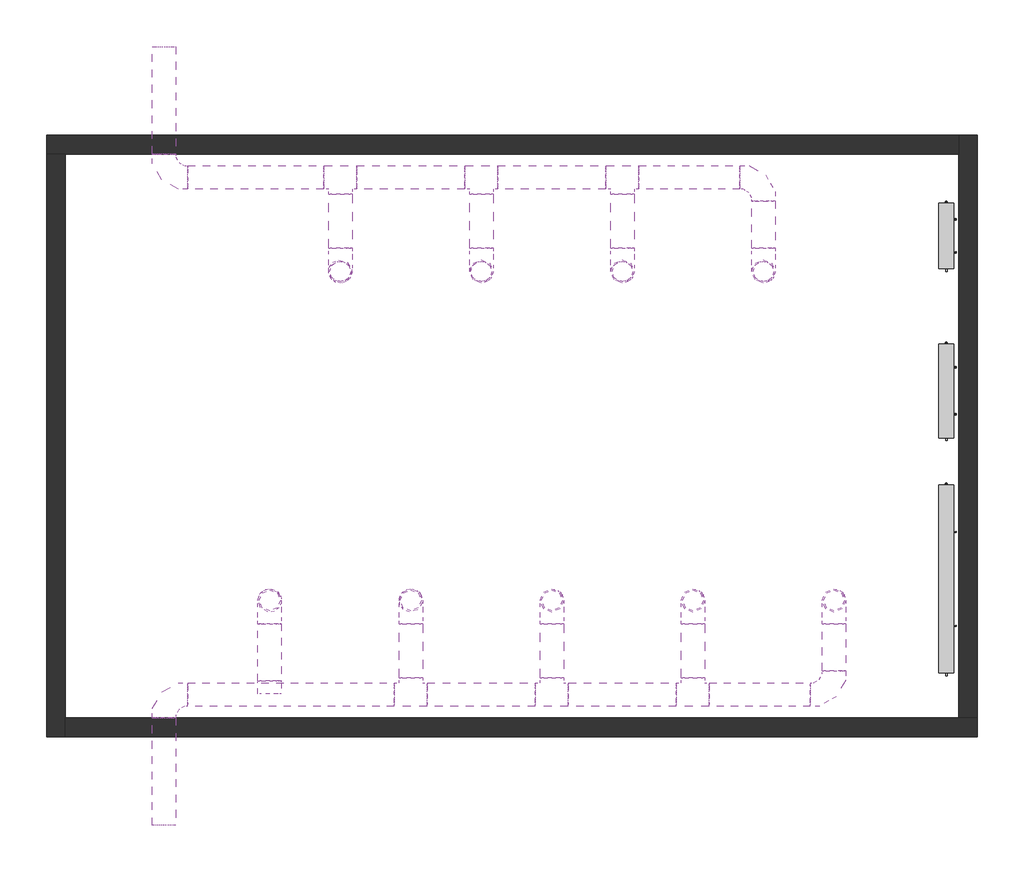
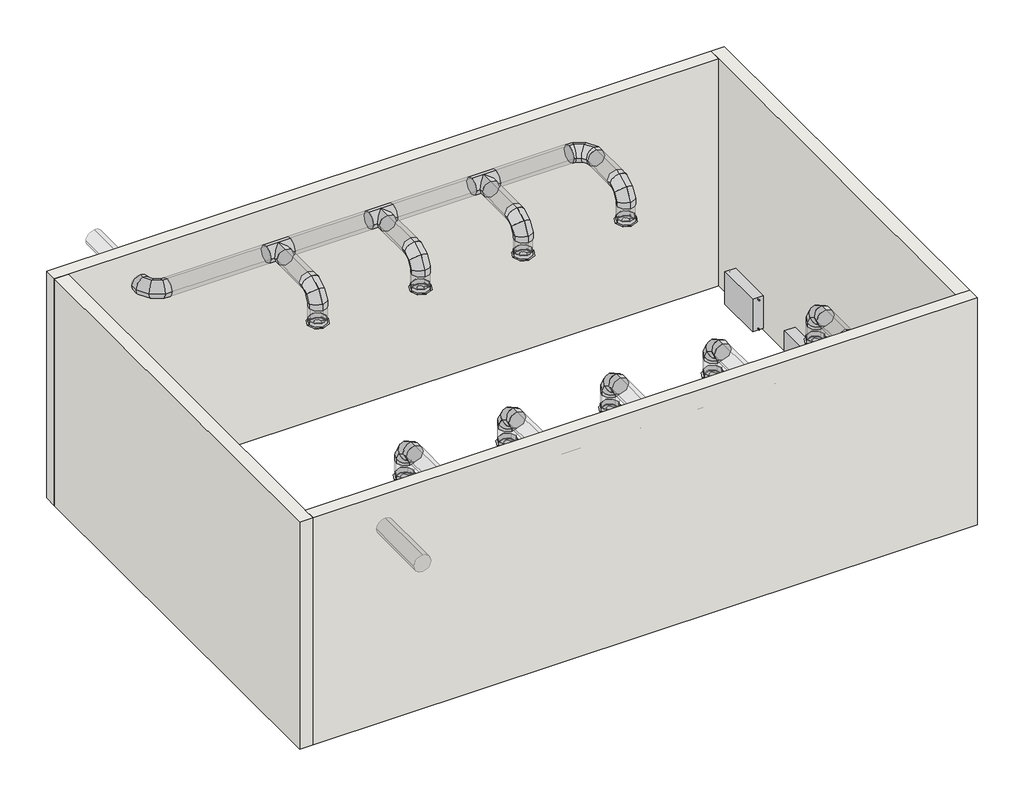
# One storey: 28 duct segments, 20 duct fittings, 9 air terminals, 4 walls, 3 proxies.
"""IFC4 building model written with IfcOpenShell, lengths in millimetres."""

from ifc_helpers import new_model, si_unit, point, frame, frame_2d, origin, place, context, project, spatial, circle_curve, trimmed, segment, composite_curve, outline, extrude, faceted_brep, transform, mapped, element, save
from components import air_terminal_78af20ec, air_terminal_76ce87f1, mechanical_equipment_f235ed72, mechanical_equipment_9d38e92a, proxy_33_500_700_09fd8b91, duct_fitting_1b364241, duct_fitting_96cd7033, duct_fitting_79440b35, duct_fitting_25d344ac, duct_fitting_45c82917

model = new_model("IFC4")

# Units and contexts
model_context = context("Model", 3, world=origin())
ifc_project = project(units=[si_unit("LENGTHUNIT", "METRE", prefix="MILLI")], contexts=[model_context])

# Site, building, storey
site = spatial("IfcSite", under=ifc_project)
building = spatial("IfcBuilding", under=site)
storey = spatial("IfcBuildingStorey", under=building, Name="Уровень 1", Elevation=0.0)

# Air terminals
placement = place(None, origin())
air_terminal_shape = air_terminal_78af20ec(model_context)
element("IfcAirTerminal", 1, ObjectType="ADSK_Диффузор_Круглый_Вытяжной : Ф250", at=placement, inside=storey, context=model_context, shape_type="MappedRepresentation", body=[
    mapped(air_terminal_shape, transform((4240.9436509, 4829.7957283, 2500.0), x_axis=(1.0, 0.0, 0.0), y_axis=(0.0, 1.0, 0.0), z_axis=(0.0, 0.0, 1.0))),
])
element("IfcAirTerminal", 2, ObjectType="ADSK_Диффузор_Круглый_Вытяжной : Ф250", at=placement, inside=storey, context=model_context, shape_type="MappedRepresentation", body=[
    mapped(air_terminal_shape, transform((5740.9436509, 4829.7957283, 2500.0), x_axis=(1.0, 0.0, 0.0), y_axis=(0.0, 1.0, 0.0), z_axis=(0.0, 0.0, 1.0))),
])
element("IfcAirTerminal", 3, ObjectType="ADSK_Диффузор_Круглый_Вытяжной : Ф250", at=placement, inside=storey, context=model_context, shape_type="MappedRepresentation", body=[
    mapped(air_terminal_shape, transform((7240.9436509, 4829.7957283, 2500.0), x_axis=(1.0, 0.0, 0.0), y_axis=(0.0, 1.0, 0.0), z_axis=(0.0, 0.0, 1.0))),
])
element("IfcAirTerminal", 4, ObjectType="ADSK_Диффузор_Круглый_Вытяжной : Ф250", at=placement, inside=storey, context=model_context, shape_type="MappedRepresentation", body=[
    mapped(air_terminal_shape, transform((8740.9436509, 4829.7957283, 2500.0), x_axis=(1.0, 0.0, 0.0), y_axis=(0.0, 1.0, 0.0), z_axis=(0.0, 0.0, 1.0))),
])
air_terminal_2_shape = air_terminal_76ce87f1(model_context)
element("IfcAirTerminal", 5, ObjectType="ADSK_Диффузор_Круглый_Вытяжной : Ф250", at=placement, inside=storey, context=model_context, shape_type="MappedRepresentation", body=[
    mapped(air_terminal_2_shape, transform((4990.9436509, 1329.7086168, 2500.0), x_axis=(1.0, 0.0, 0.0), y_axis=(0.0, 1.0, 0.0), z_axis=(0.0, 0.0, 1.0))),
])
element("IfcAirTerminal", 6, ObjectType="ADSK_Диффузор_Круглый_Вытяжной : Ф250", at=placement, inside=storey, context=model_context, shape_type="MappedRepresentation", body=[
    mapped(air_terminal_2_shape, transform((6490.9436509, 1329.7086168, 2500.0), x_axis=(1.0, 0.0, 0.0), y_axis=(0.0, 1.0, 0.0), z_axis=(0.0, 0.0, 1.0))),
])
element("IfcAirTerminal", 7, ObjectType="ADSK_Диффузор_Круглый_Вытяжной : Ф250", at=placement, inside=storey, context=model_context, shape_type="MappedRepresentation", body=[
    mapped(air_terminal_2_shape, transform((7990.9436509, 1329.7086168, 2500.0), x_axis=(1.0, 0.0, 0.0), y_axis=(0.0, 1.0, 0.0), z_axis=(0.0, 0.0, 1.0))),
])
element("IfcAirTerminal", 8, ObjectType="ADSK_Диффузор_Круглый_Вытяжной : Ф250", at=placement, inside=storey, context=model_context, shape_type="MappedRepresentation", body=[
    mapped(air_terminal_2_shape, transform((9490.9436509, 1329.7086168, 2500.0), x_axis=(1.0, 0.0, 0.0), y_axis=(0.0, 1.0, 0.0), z_axis=(0.0, 0.0, 1.0))),
])
element("IfcAirTerminal", 9, ObjectType="ADSK_Диффузор_Круглый_Вытяжной : Ф250", at=placement, inside=storey, context=model_context, shape_type="MappedRepresentation", body=[
    mapped(air_terminal_2_shape, transform((3490.9436509, 1329.7086168, 2500.0), x_axis=(1.0, 0.0, 0.0), y_axis=(0.0, 1.0, 0.0), z_axis=(0.0, 0.0, 1.0))),
])

# Proxies
mechanical_equipment_shape = mechanical_equipment_f235ed72(model_context)
element("IfcBuildingElementProxy", 10, Name="ADSK_Радиатор_СтальнойПанельный : 33_500_1000", ObjectType="ADSK_Радиатор_СтальнойПанельный : 33_500_1000", at=placement, inside=storey, context=model_context, shape_type="MappedRepresentation", body=[
    mapped(mechanical_equipment_shape, transform((10817.2887318, 3759.7521725, 0.0), x_axis=(0.0, -1.0, 0.0), y_axis=(1.0, 0.0, 0.0), z_axis=(0.0, 0.0, 1.0))),
])
mechanical_equipment_2_shape = mechanical_equipment_9d38e92a(model_context)
element("IfcBuildingElementProxy", 11, Name="ADSK_Радиатор_СтальнойПанельный : 33_500_2000", ObjectType="ADSK_Радиатор_СтальнойПанельный : 33_500_2000", at=placement, inside=storey, context=model_context, shape_type="MappedRepresentation", body=[
    mapped(mechanical_equipment_2_shape, transform((10817.2887318, 1759.7521725, 0.0), x_axis=(0.0, -1.0, 0.0), y_axis=(1.0, 0.0, 0.0), z_axis=(0.0, 0.0, 1.0))),
])
proxy_33_500_700_shape = proxy_33_500_700_09fd8b91(model_context)
element("IfcBuildingElementProxy", 12, Name="ADSK_Радиатор_СтальнойПанельный : 33_500_700", ObjectType="ADSK_Радиатор_СтальнойПанельный : 33_500_700", at=placement, inside=storey, context=model_context, shape_type="MappedRepresentation", body=[
    mapped(proxy_33_500_700_shape, transform((10817.2887318, 5409.7521725, 0.0), x_axis=(0.0, -1.0, 0.0), y_axis=(1.0, 0.0, 0.0), z_axis=(0.0, 0.0, 1.0))),
])

# Duct fittings
duct_fitting_shape = duct_fitting_1b364241(model_context)
element("IfcDuctFitting", 13, ObjectType="ADSK_ОтводВоздуховодов_Круглый : Стандарт", at=placement, inside=storey, context=model_context, shape_type="MappedRepresentation", body=[
    mapped(duct_fitting_shape, transform((4240.9436509, 4829.7957283, 3000.0), x_axis=(0.0, 0.0, 1.0), y_axis=(0.0, 1.0, 0.0), z_axis=(-1.0, 0.0, 0.0))),
])
element("IfcDuctFitting", 14, ObjectType="ADSK_ОтводВоздуховодов_Круглый : Стандарт", at=placement, inside=storey, context=model_context, shape_type="MappedRepresentation", body=[
    mapped(duct_fitting_shape, transform((5740.9436509, 4829.7957283, 3000.0), x_axis=(0.0, 0.0, 1.0), y_axis=(0.0, 1.0, 0.0), z_axis=(-1.0, 0.0, 0.0))),
])
element("IfcDuctFitting", 15, ObjectType="ADSK_ОтводВоздуховодов_Круглый : Стандарт", at=placement, inside=storey, context=model_context, shape_type="MappedRepresentation", body=[
    mapped(duct_fitting_shape, transform((7240.9436509, 4829.7957283, 3000.0), x_axis=(0.0, 0.0, 1.0), y_axis=(0.0, 1.0, 0.0), z_axis=(-1.0, 0.0, 0.0))),
])
element("IfcDuctFitting", 16, ObjectType="ADSK_ОтводВоздуховодов_Круглый : Стандарт", at=placement, inside=storey, context=model_context, shape_type="MappedRepresentation", body=[
    mapped(duct_fitting_shape, transform((8740.9436509, 5829.6845708, 3000.0), x_axis=(0.0, 1.0, 0.0), y_axis=(-1.0, 0.0, 0.0), z_axis=(0.0, 0.0, 1.0))),
])
element("IfcDuctFitting", 17, ObjectType="ADSK_ОтводВоздуховодов_Круглый : Стандарт", at=placement, inside=storey, context=model_context, shape_type="MappedRepresentation", body=[
    mapped(duct_fitting_shape, transform((8740.9436509, 4829.7957283, 3000.0), x_axis=(0.0, 0.0, 1.0), y_axis=(0.0, 1.0, 0.0), z_axis=(-1.0, 0.0, 0.0))),
])
element("IfcDuctFitting", 18, ObjectType="ADSK_ОтводВоздуховодов_Круглый : Стандарт", at=placement, inside=storey, context=model_context, shape_type="MappedRepresentation", body=[
    mapped(duct_fitting_shape, transform((2367.9191476, 5829.6845708, 3000.0), x_axis=(0.0, -1.0, 0.0), y_axis=(1.0, 0.0, 0.0), z_axis=(0.0, 0.0, 1.0))),
])
element("IfcDuctFitting", 19, ObjectType="ADSK_ОтводВоздуховодов_Круглый : Стандарт", at=placement, inside=storey, context=model_context, shape_type="MappedRepresentation", body=[
    mapped(duct_fitting_shape, transform((3490.9436509, 1329.7086168, 3000.0), x_axis=(0.0, 0.0, 1.0), y_axis=(0.0, -1.0, 0.0), z_axis=(1.0, 0.0, 0.0))),
])
duct_fitting_2_shape = duct_fitting_96cd7033(model_context)
element("IfcDuctFitting", 20, ObjectType="ADSK_ТройникВоздуховодов_Круглый : Стандарт", at=placement, inside=storey, context=model_context, shape_type="MappedRepresentation", body=[
    mapped(duct_fitting_2_shape, transform((4240.9436509, 5829.6845708, 3000.0), x_axis=(1.0, 0.0, 0.0), y_axis=(0.0, 1.0, 0.0), z_axis=(0.0, 0.0, 1.0))),
])
element("IfcDuctFitting", 21, ObjectType="ADSK_ТройникВоздуховодов_Круглый : Стандарт", at=placement, inside=storey, context=model_context, shape_type="MappedRepresentation", body=[
    mapped(duct_fitting_2_shape, transform((5740.9436509, 5829.6845708, 3000.0), x_axis=(1.0, 0.0, 0.0), y_axis=(0.0, 1.0, 0.0), z_axis=(0.0, 0.0, 1.0))),
])
element("IfcDuctFitting", 22, ObjectType="ADSK_ТройникВоздуховодов_Круглый : Стандарт", at=placement, inside=storey, context=model_context, shape_type="MappedRepresentation", body=[
    mapped(duct_fitting_2_shape, transform((7240.9436509, 5829.6845708, 3000.0), x_axis=(1.0, 0.0, 0.0), y_axis=(0.0, 1.0, 0.0), z_axis=(0.0, 0.0, 1.0))),
])
duct_fitting_3_shape = duct_fitting_79440b35(model_context)
element("IfcDuctFitting", 23, ObjectType="ADSK_ОтводВоздуховодов_Круглый : Стандарт", at=placement, inside=storey, context=model_context, shape_type="MappedRepresentation", body=[
    mapped(duct_fitting_3_shape, transform((4990.9436509, 1329.7086168, 3000.0), x_axis=(0.0, 0.0, 1.0), y_axis=(0.0, 1.0, 0.0), z_axis=(-1.0, 0.0, 0.0))),
])
element("IfcDuctFitting", 24, ObjectType="ADSK_ОтводВоздуховодов_Круглый : Стандарт", at=placement, inside=storey, context=model_context, shape_type="MappedRepresentation", body=[
    mapped(duct_fitting_3_shape, transform((6490.9436509, 1329.7086168, 3000.0), x_axis=(0.0, 0.0, 1.0), y_axis=(0.0, 1.0, 0.0), z_axis=(-1.0, 0.0, 0.0))),
])
element("IfcDuctFitting", 25, ObjectType="ADSK_ОтводВоздуховодов_Круглый : Стандарт", at=placement, inside=storey, context=model_context, shape_type="MappedRepresentation", body=[
    mapped(duct_fitting_3_shape, transform((7990.9436509, 1329.7086168, 3000.0), x_axis=(0.0, 0.0, 1.0), y_axis=(0.0, 1.0, 0.0), z_axis=(-1.0, 0.0, 0.0))),
])
element("IfcDuctFitting", 26, ObjectType="ADSK_ОтводВоздуховодов_Круглый : Стандарт", at=placement, inside=storey, context=model_context, shape_type="MappedRepresentation", body=[
    mapped(duct_fitting_3_shape, transform((9490.9436509, 329.8197743, 3000.0), x_axis=(0.0, -1.0, 0.0), y_axis=(1.0, 0.0, 0.0), z_axis=(0.0, 0.0, 1.0))),
])
element("IfcDuctFitting", 27, ObjectType="ADSK_ОтводВоздуховодов_Круглый : Стандарт", at=placement, inside=storey, context=model_context, shape_type="MappedRepresentation", body=[
    mapped(duct_fitting_3_shape, transform((9490.9436509, 1329.7086168, 3000.0), x_axis=(0.0, 0.0, 1.0), y_axis=(0.0, 1.0, 0.0), z_axis=(-1.0, 0.0, 0.0))),
])
element("IfcDuctFitting", 28, ObjectType="ADSK_ОтводВоздуховодов_Круглый : Стандарт", at=placement, inside=storey, context=model_context, shape_type="MappedRepresentation", body=[
    mapped(duct_fitting_3_shape, transform((2367.9191476, 329.8197743, 3000.0), x_axis=(0.0, 1.0, 0.0), y_axis=(-1.0, 0.0, 0.0), z_axis=(0.0, 0.0, 1.0))),
])
duct_fitting_4_shape = duct_fitting_25d344ac(model_context)
element("IfcDuctFitting", 29, ObjectType="ADSK_ТройникВоздуховодов_Круглый : Стандарт", at=placement, inside=storey, context=model_context, shape_type="MappedRepresentation", body=[
    mapped(duct_fitting_4_shape, transform((4990.9436509, 329.8197743, 3000.0), x_axis=(1.0, 0.0, 0.0), y_axis=(0.0, 1.0, 0.0), z_axis=(0.0, 0.0, 1.0))),
])
element("IfcDuctFitting", 30, ObjectType="ADSK_ТройникВоздуховодов_Круглый : Стандарт", at=placement, inside=storey, context=model_context, shape_type="MappedRepresentation", body=[
    mapped(duct_fitting_4_shape, transform((6490.9436509, 329.8197743, 3000.0), x_axis=(1.0, 0.0, 0.0), y_axis=(0.0, 1.0, 0.0), z_axis=(0.0, 0.0, 1.0))),
])
element("IfcDuctFitting", 31, ObjectType="ADSK_ТройникВоздуховодов_Круглый : Стандарт", at=placement, inside=storey, context=model_context, shape_type="MappedRepresentation", body=[
    mapped(duct_fitting_4_shape, transform((7990.9436509, 329.8197743, 3000.0), x_axis=(1.0, 0.0, 0.0), y_axis=(0.0, 1.0, 0.0), z_axis=(0.0, 0.0, 1.0))),
])
duct_fitting_5_shape = duct_fitting_45c82917(model_context)
element("IfcDuctFitting", 32, ObjectType="ADSK_ВрезкаВоздуховодов_Круглая : Стандарт", at=placement, inside=storey, context=model_context, shape_type="MappedRepresentation", body=[
    mapped(duct_fitting_5_shape, transform((3490.9436509, 454.8197743, 3000.0), x_axis=(0.0, 1.0, 0.0), y_axis=(1.0, 0.0, 0.0), z_axis=(0.0, 0.0, -1.0))),
])

# Duct segments
element("IfcDuctSegment", 33, ObjectType="ADSK_Без огнезащиты_Врезки_ГОСТ 14918-80", at=placement, inside=storey, context=model_context, shape_type="SweptSolid", body=[
    extrude(outline(composite_curve([segment(trimmed(circle_curve(frame_2d((5829.6845708, 3000.0)), 125.0), [point((5704.6845708, 3000.0))], [point((5829.6845708, 3125.0))], False, "CARTESIAN"), True, "CONTINUOUS"), segment(trimmed(circle_curve(frame_2d((5829.6845708, 3000.0)), 125.0), [point((5829.6845708, 3125.0))], [point((5954.6845708, 3000.0))], False, "CARTESIAN"), True, "CONTINUOUS"), segment(trimmed(circle_curve(frame_2d((5829.6845708, 3000.0)), 125.0), [point((5954.6845708, 3000.0))], [point((5829.6845708, 2875.0))], False, "CARTESIAN"), True, "CONTINUOUS"), segment(trimmed(circle_curve(frame_2d((5829.6845708, 3000.0)), 125.0), [point((5829.6845708, 2875.0))], [point((5704.6845708, 3000.0))], False, "CARTESIAN"), True, "CONTINUOUS")], self_intersect=False)), frame((2617.9191476, 0.0, 0.0), z_axis=(1.0, 0.0, 0.0), x_axis=(0.0, 1.0, 0.0)), (0.0, 0.0, 1.0), 1448.0245033),
])
element("IfcDuctSegment", 34, ObjectType="ADSK_Без огнезащиты_Врезки_ГОСТ 14918-80", at=placement, inside=storey, context=model_context, shape_type="SweptSolid", body=[
    extrude(outline(composite_curve([segment(trimmed(circle_curve(frame_2d((3000.0, 4240.9436509)), 125.0), [point((3000.0, 4115.9436509))], [point((2875.0, 4240.9436509))], False, "CARTESIAN"), True, "CONTINUOUS"), segment(trimmed(circle_curve(frame_2d((3000.0, 4240.9436509)), 125.0), [point((2875.0, 4240.9436509))], [point((3000.0, 4365.9436509))], False, "CARTESIAN"), True, "CONTINUOUS"), segment(trimmed(circle_curve(frame_2d((3000.0, 4240.9436509)), 125.0), [point((3000.0, 4365.9436509))], [point((3125.0, 4240.9436509))], False, "CARTESIAN"), True, "CONTINUOUS"), segment(trimmed(circle_curve(frame_2d((3000.0, 4240.9436509)), 125.0), [point((3125.0, 4240.9436509))], [point((3000.0, 4115.9436509))], False, "CARTESIAN"), True, "CONTINUOUS")], self_intersect=False)), frame((0.0, 5079.7957283, 0.0), z_axis=(0.0, 1.0, 0.0), x_axis=(0.0, 0.0, 1.0)), (0.0, 0.0, 1.0), 574.8888425),
])
element("IfcDuctSegment", 35, ObjectType="ADSK_Без огнезащиты_Врезки_ГОСТ 14918-80", at=placement, inside=storey, context=model_context, shape_type="SweptSolid", body=[
    extrude(outline(composite_curve([segment(trimmed(circle_curve(frame_2d((4240.9436509, 4829.7957283)), 125.0), [point((4364.560695, 4848.3382849))], [point((4259.4862075, 4706.1786842))], False, "CARTESIAN"), True, "CONTINUOUS"), segment(trimmed(circle_curve(frame_2d((4240.9436509, 4829.7957283)), 125.0), [point((4259.4862075, 4706.1786842))], [point((4117.3266068, 4811.2531717))], False, "CARTESIAN"), True, "CONTINUOUS"), segment(trimmed(circle_curve(frame_2d((4240.9436509, 4829.7957283)), 125.0), [point((4117.3266068, 4811.2531717))], [point((4222.4010943, 4953.4127724))], False, "CARTESIAN"), True, "CONTINUOUS"), segment(trimmed(circle_curve(frame_2d((4240.9436509, 4829.7957283)), 125.0), [point((4222.4010943, 4953.4127724))], [point((4364.560695, 4848.3382849))], False, "CARTESIAN"), True, "CONTINUOUS")], self_intersect=False)), frame((0.0, 0.0, 2555.0), z_axis=(0.0, 0.0, 1.0), x_axis=(1.0, 0.0, 0.0)), (0.0, 0.0, 1.0), 195.0),
])
element("IfcDuctSegment", 36, ObjectType="По умолчанию", at=placement, inside=storey, context=model_context, shape_type="SweptSolid", body=[
    extrude(outline(composite_curve([segment(trimmed(circle_curve(frame_2d((5829.6845708, 3000.0)), 125.0), [point((5704.6845708, 3000.0))], [point((5829.6845708, 3125.0))], False, "CARTESIAN"), True, "CONTINUOUS"), segment(trimmed(circle_curve(frame_2d((5829.6845708, 3000.0)), 125.0), [point((5829.6845708, 3125.0))], [point((5954.6845708, 3000.0))], False, "CARTESIAN"), True, "CONTINUOUS"), segment(trimmed(circle_curve(frame_2d((5829.6845708, 3000.0)), 125.0), [point((5954.6845708, 3000.0))], [point((5829.6845708, 2875.0))], False, "CARTESIAN"), True, "CONTINUOUS"), segment(trimmed(circle_curve(frame_2d((5829.6845708, 3000.0)), 125.0), [point((5829.6845708, 2875.0))], [point((5704.6845708, 3000.0))], False, "CARTESIAN"), True, "CONTINUOUS")], self_intersect=False)), frame((4415.9436509, 0.0, 0.0), z_axis=(1.0, 0.0, 0.0), x_axis=(0.0, 1.0, 0.0)), (0.0, 0.0, 1.0), 1150.0),
])
element("IfcDuctSegment", 37, ObjectType="ADSK_Без огнезащиты_Врезки_ГОСТ 14918-80", at=placement, inside=storey, context=model_context, shape_type="SweptSolid", body=[
    extrude(outline(composite_curve([segment(trimmed(circle_curve(frame_2d((3000.0, 5740.9436509)), 125.0), [point((3000.0, 5615.9436509))], [point((2875.0, 5740.9436509))], False, "CARTESIAN"), True, "CONTINUOUS"), segment(trimmed(circle_curve(frame_2d((3000.0, 5740.9436509)), 125.0), [point((2875.0, 5740.9436509))], [point((3000.0, 5865.9436509))], False, "CARTESIAN"), True, "CONTINUOUS"), segment(trimmed(circle_curve(frame_2d((3000.0, 5740.9436509)), 125.0), [point((3000.0, 5865.9436509))], [point((3125.0, 5740.9436509))], False, "CARTESIAN"), True, "CONTINUOUS"), segment(trimmed(circle_curve(frame_2d((3000.0, 5740.9436509)), 125.0), [point((3125.0, 5740.9436509))], [point((3000.0, 5615.9436509))], False, "CARTESIAN"), True, "CONTINUOUS")], self_intersect=False)), frame((0.0, 5079.7957283, 0.0), z_axis=(0.0, 1.0, 0.0), x_axis=(0.0, 0.0, 1.0)), (0.0, 0.0, 1.0), 574.8888425),
])
element("IfcDuctSegment", 38, ObjectType="ADSK_Без огнезащиты_Врезки_ГОСТ 14918-80", at=placement, inside=storey, context=model_context, shape_type="SweptSolid", body=[
    extrude(outline(composite_curve([segment(trimmed(circle_curve(frame_2d((5740.9436509, 4829.7957283)), 125.0), [point((5865.9436509, 4829.7957283))], [point((5740.9436509, 4704.7957283))], False, "CARTESIAN"), True, "CONTINUOUS"), segment(trimmed(circle_curve(frame_2d((5740.9436509, 4829.7957283)), 125.0), [point((5740.9436509, 4704.7957283))], [point((5615.9436509, 4829.7957283))], False, "CARTESIAN"), True, "CONTINUOUS"), segment(trimmed(circle_curve(frame_2d((5740.9436509, 4829.7957283)), 125.0), [point((5615.9436509, 4829.7957283))], [point((5740.9436509, 4954.7957283))], False, "CARTESIAN"), True, "CONTINUOUS"), segment(trimmed(circle_curve(frame_2d((5740.9436509, 4829.7957283)), 125.0), [point((5740.9436509, 4954.7957283))], [point((5865.9436509, 4829.7957283))], False, "CARTESIAN"), True, "CONTINUOUS")], self_intersect=False)), frame((0.0, 0.0, 2555.0), z_axis=(0.0, 0.0, 1.0), x_axis=(1.0, 0.0, 0.0)), (0.0, 0.0, 1.0), 195.0),
])
element("IfcDuctSegment", 39, ObjectType="ADSK_Без огнезащиты_Врезки_ГОСТ 14918-80", at=placement, inside=storey, context=model_context, shape_type="SweptSolid", body=[
    extrude(outline(composite_curve([segment(trimmed(circle_curve(frame_2d((3000.0, 7240.9436509)), 125.0), [point((3000.0, 7115.9436509))], [point((2875.0, 7240.9436509))], False, "CARTESIAN"), True, "CONTINUOUS"), segment(trimmed(circle_curve(frame_2d((3000.0, 7240.9436509)), 125.0), [point((2875.0, 7240.9436509))], [point((3000.0, 7365.9436509))], False, "CARTESIAN"), True, "CONTINUOUS"), segment(trimmed(circle_curve(frame_2d((3000.0, 7240.9436509)), 125.0), [point((3000.0, 7365.9436509))], [point((3125.0, 7240.9436509))], False, "CARTESIAN"), True, "CONTINUOUS"), segment(trimmed(circle_curve(frame_2d((3000.0, 7240.9436509)), 125.0), [point((3125.0, 7240.9436509))], [point((3000.0, 7115.9436509))], False, "CARTESIAN"), True, "CONTINUOUS")], self_intersect=False)), frame((0.0, 5079.7957283, 0.0), z_axis=(0.0, 1.0, 0.0), x_axis=(0.0, 0.0, 1.0)), (0.0, 0.0, 1.0), 574.8888425),
])
element("IfcDuctSegment", 40, ObjectType="ADSK_Без огнезащиты_Врезки_ГОСТ 14918-80", at=placement, inside=storey, context=model_context, shape_type="SweptSolid", body=[
    extrude(outline(composite_curve([segment(trimmed(circle_curve(frame_2d((7240.9436509, 4829.7957283)), 125.0), [point((7365.9436509, 4829.7957283))], [point((7240.9436509, 4704.7957283))], False, "CARTESIAN"), True, "CONTINUOUS"), segment(trimmed(circle_curve(frame_2d((7240.9436509, 4829.7957283)), 125.0), [point((7240.9436509, 4704.7957283))], [point((7115.9436509, 4829.7957283))], False, "CARTESIAN"), True, "CONTINUOUS"), segment(trimmed(circle_curve(frame_2d((7240.9436509, 4829.7957283)), 125.0), [point((7115.9436509, 4829.7957283))], [point((7240.9436509, 4954.7957283))], False, "CARTESIAN"), True, "CONTINUOUS"), segment(trimmed(circle_curve(frame_2d((7240.9436509, 4829.7957283)), 125.0), [point((7240.9436509, 4954.7957283))], [point((7365.9436509, 4829.7957283))], False, "CARTESIAN"), True, "CONTINUOUS")], self_intersect=False)), frame((0.0, 0.0, 2555.0), z_axis=(0.0, 0.0, 1.0), x_axis=(1.0, 0.0, 0.0)), (0.0, 0.0, 1.0), 195.0),
])
element("IfcDuctSegment", 41, ObjectType="ADSK_Без огнезащиты_Врезки_ГОСТ 14918-80", at=placement, inside=storey, context=model_context, shape_type="SweptSolid", body=[
    extrude(outline(composite_curve([segment(trimmed(circle_curve(frame_2d((3000.0, 8740.9436509)), 125.0), [point((3000.0, 8615.9436509))], [point((2875.0, 8740.9436509))], False, "CARTESIAN"), True, "CONTINUOUS"), segment(trimmed(circle_curve(frame_2d((3000.0, 8740.9436509)), 125.0), [point((2875.0, 8740.9436509))], [point((3000.0, 8865.9436509))], False, "CARTESIAN"), True, "CONTINUOUS"), segment(trimmed(circle_curve(frame_2d((3000.0, 8740.9436509)), 125.0), [point((3000.0, 8865.9436509))], [point((3125.0, 8740.9436509))], False, "CARTESIAN"), True, "CONTINUOUS"), segment(trimmed(circle_curve(frame_2d((3000.0, 8740.9436509)), 125.0), [point((3125.0, 8740.9436509))], [point((3000.0, 8615.9436509))], False, "CARTESIAN"), True, "CONTINUOUS")], self_intersect=False)), frame((0.0, 5079.7957283, 0.0), z_axis=(0.0, 1.0, 0.0), x_axis=(0.0, 0.0, 1.0)), (0.0, 0.0, 1.0), 499.8888425),
])
element("IfcDuctSegment", 42, ObjectType="ADSK_Без огнезащиты_Врезки_ГОСТ 14918-80", at=placement, inside=storey, context=model_context, shape_type="SweptSolid", body=[
    extrude(outline(composite_curve([segment(trimmed(circle_curve(frame_2d((8740.9436509, 4829.7957283)), 125.0), [point((8865.9436509, 4829.7957283))], [point((8740.9436509, 4704.7957283))], False, "CARTESIAN"), True, "CONTINUOUS"), segment(trimmed(circle_curve(frame_2d((8740.9436509, 4829.7957283)), 125.0), [point((8740.9436509, 4704.7957283))], [point((8615.9436509, 4829.7957283))], False, "CARTESIAN"), True, "CONTINUOUS"), segment(trimmed(circle_curve(frame_2d((8740.9436509, 4829.7957283)), 125.0), [point((8615.9436509, 4829.7957283))], [point((8740.9436509, 4954.7957283))], False, "CARTESIAN"), True, "CONTINUOUS"), segment(trimmed(circle_curve(frame_2d((8740.9436509, 4829.7957283)), 125.0), [point((8740.9436509, 4954.7957283))], [point((8865.9436509, 4829.7957283))], False, "CARTESIAN"), True, "CONTINUOUS")], self_intersect=False)), frame((0.0, 0.0, 2555.0), z_axis=(0.0, 0.0, 1.0), x_axis=(1.0, 0.0, 0.0)), (0.0, 0.0, 1.0), 195.0),
])
element("IfcDuctSegment", 43, ObjectType="По умолчанию", at=placement, inside=storey, context=model_context, shape_type="SweptSolid", body=[
    extrude(outline(composite_curve([segment(trimmed(circle_curve(frame_2d((5829.6845708, 3000.0)), 125.0), [point((5954.6845708, 3000.0))], [point((5829.6845708, 2875.0))], False, "CARTESIAN"), True, "CONTINUOUS"), segment(trimmed(circle_curve(frame_2d((5829.6845708, 3000.0)), 125.0), [point((5829.6845708, 2875.0))], [point((5704.6845708, 3000.0))], False, "CARTESIAN"), True, "CONTINUOUS"), segment(trimmed(circle_curve(frame_2d((5829.6845708, 3000.0)), 125.0), [point((5704.6845708, 3000.0))], [point((5829.6845708, 3125.0))], False, "CARTESIAN"), True, "CONTINUOUS"), segment(trimmed(circle_curve(frame_2d((5829.6845708, 3000.0)), 125.0), [point((5829.6845708, 3125.0))], [point((5954.6845708, 3000.0))], False, "CARTESIAN"), True, "CONTINUOUS")], self_intersect=False)), frame((5915.9436509, 0.0, 0.0), z_axis=(1.0, 0.0, 0.0), x_axis=(0.0, 1.0, 0.0)), (0.0, 0.0, 1.0), 1150.0),
])
element("IfcDuctSegment", 44, ObjectType="ADSK_Без огнезащиты_Врезки_ГОСТ 14918-80", at=placement, inside=storey, context=model_context, shape_type="SweptSolid", body=[
    extrude(outline(composite_curve([segment(trimmed(circle_curve(frame_2d((5829.6845708, 3000.0)), 125.0), [point((5704.6845708, 3000.0))], [point((5829.6845708, 3125.0))], False, "CARTESIAN"), True, "CONTINUOUS"), segment(trimmed(circle_curve(frame_2d((5829.6845708, 3000.0)), 125.0), [point((5829.6845708, 3125.0))], [point((5954.6845708, 3000.0))], False, "CARTESIAN"), True, "CONTINUOUS"), segment(trimmed(circle_curve(frame_2d((5829.6845708, 3000.0)), 125.0), [point((5954.6845708, 3000.0))], [point((5829.6845708, 2875.0))], False, "CARTESIAN"), True, "CONTINUOUS"), segment(trimmed(circle_curve(frame_2d((5829.6845708, 3000.0)), 125.0), [point((5829.6845708, 2875.0))], [point((5704.6845708, 3000.0))], False, "CARTESIAN"), True, "CONTINUOUS")], self_intersect=False)), frame((7415.9436509, 0.0, 0.0), z_axis=(1.0, 0.0, 0.0), x_axis=(0.0, 1.0, 0.0)), (0.0, 0.0, 1.0), 1075.0),
])
element("IfcDuctSegment", 45, ObjectType="ADSK_Без огнезащиты_Врезки_ГОСТ 14918-80", at=placement, inside=storey, context=model_context, shape_type="SweptSolid", body=[
    extrude(outline(composite_curve([segment(trimmed(circle_curve(frame_2d((3000.0, 2367.9191476)), 125.0), [point((3000.0, 2492.9191476))], [point((3125.0, 2367.9191476))], False, "CARTESIAN"), True, "CONTINUOUS"), segment(trimmed(circle_curve(frame_2d((3000.0, 2367.9191476)), 125.0), [point((3125.0, 2367.9191476))], [point((3000.0, 2242.9191476))], False, "CARTESIAN"), True, "CONTINUOUS"), segment(trimmed(circle_curve(frame_2d((3000.0, 2367.9191476)), 125.0), [point((3000.0, 2242.9191476))], [point((2875.0, 2367.9191476))], False, "CARTESIAN"), True, "CONTINUOUS"), segment(trimmed(circle_curve(frame_2d((3000.0, 2367.9191476)), 125.0), [point((2875.0, 2367.9191476))], [point((3000.0, 2492.9191476))], False, "CARTESIAN"), True, "CONTINUOUS")], self_intersect=False)), frame((0.0, 6079.6845708, 0.0), z_axis=(0.0, 1.0, 0.0), x_axis=(0.0, 0.0, 1.0)), (0.0, 0.0, 1.0), 1143.9714759),
])
element("IfcDuctSegment", 46, ObjectType="ADSK_Без огнезащиты_Врезки_ГОСТ 14918-80", at=placement, inside=storey, context=model_context, shape_type="SweptSolid", body=[
    extrude(outline(composite_curve([segment(trimmed(circle_curve(frame_2d((329.8197743, 3000.0)), 125.0), [point((204.8197743, 3000.0))], [point((329.8197743, 3125.0))], False, "CARTESIAN"), True, "CONTINUOUS"), segment(trimmed(circle_curve(frame_2d((329.8197743, 3000.0)), 125.0), [point((329.8197743, 3125.0))], [point((454.8197743, 3000.0))], False, "CARTESIAN"), True, "CONTINUOUS"), segment(trimmed(circle_curve(frame_2d((329.8197743, 3000.0)), 125.0), [point((454.8197743, 3000.0))], [point((329.8197743, 2875.0))], False, "CARTESIAN"), True, "CONTINUOUS"), segment(trimmed(circle_curve(frame_2d((329.8197743, 3000.0)), 125.0), [point((329.8197743, 2875.0))], [point((204.8197743, 3000.0))], False, "CARTESIAN"), True, "CONTINUOUS")], self_intersect=False)), frame((2617.9191476, 0.0, 0.0), z_axis=(1.0, 0.0, 0.0), x_axis=(0.0, 1.0, 0.0)), (0.0, 0.0, 1.0), 2198.0245033),
])
element("IfcDuctSegment", 47, ObjectType="ADSK_Без огнезащиты_Врезки_ГОСТ 14918-80", at=placement, inside=storey, context=model_context, shape_type="SweptSolid", body=[
    extrude(outline(composite_curve([segment(trimmed(circle_curve(frame_2d((3000.0, 4990.9436509)), 125.0), [point((3000.0, 5115.9436509))], [point((3125.0, 4990.9436509))], False, "CARTESIAN"), True, "CONTINUOUS"), segment(trimmed(circle_curve(frame_2d((3000.0, 4990.9436509)), 125.0), [point((3125.0, 4990.9436509))], [point((3000.0, 4865.9436509))], False, "CARTESIAN"), True, "CONTINUOUS"), segment(trimmed(circle_curve(frame_2d((3000.0, 4990.9436509)), 125.0), [point((3000.0, 4865.9436509))], [point((2875.0, 4990.9436509))], False, "CARTESIAN"), True, "CONTINUOUS"), segment(trimmed(circle_curve(frame_2d((3000.0, 4990.9436509)), 125.0), [point((2875.0, 4990.9436509))], [point((3000.0, 5115.9436509))], False, "CARTESIAN"), True, "CONTINUOUS")], self_intersect=False)), frame((0.0, 504.8197743, 0.0), z_axis=(0.0, 1.0, 0.0), x_axis=(0.0, 0.0, 1.0)), (0.0, 0.0, 1.0), 574.8888425),
])
element("IfcDuctSegment", 48, ObjectType="ADSK_Без огнезащиты_Врезки_ГОСТ 14918-80", at=placement, inside=storey, context=model_context, shape_type="SweptSolid", body=[
    extrude(outline(composite_curve([segment(trimmed(circle_curve(frame_2d((4990.9436509, 1329.7086168)), 125.0), [point((4867.3266068, 1348.2511734))], [point((5009.4862075, 1453.3256609))], False, "CARTESIAN"), True, "CONTINUOUS"), segment(trimmed(circle_curve(frame_2d((4990.9436509, 1329.7086168)), 125.0), [point((5009.4862075, 1453.3256609))], [point((5114.560695, 1311.1660602))], False, "CARTESIAN"), True, "CONTINUOUS"), segment(trimmed(circle_curve(frame_2d((4990.9436509, 1329.7086168)), 125.0), [point((5114.560695, 1311.1660602))], [point((4972.4010943, 1206.0915727))], False, "CARTESIAN"), True, "CONTINUOUS"), segment(trimmed(circle_curve(frame_2d((4990.9436509, 1329.7086168)), 125.0), [point((4972.4010943, 1206.0915727))], [point((4867.3266068, 1348.2511734))], False, "CARTESIAN"), True, "CONTINUOUS")], self_intersect=False)), frame((0.0, 0.0, 2555.0), z_axis=(0.0, 0.0, 1.0), x_axis=(1.0, 0.0, 0.0)), (0.0, 0.0, 1.0), 195.0),
])
element("IfcDuctSegment", 49, ObjectType="По умолчанию", at=placement, inside=storey, context=model_context, shape_type="SweptSolid", body=[
    extrude(outline(composite_curve([segment(trimmed(circle_curve(frame_2d((329.8197743, 3000.0)), 125.0), [point((204.8197743, 3000.0))], [point((329.8197743, 3125.0))], False, "CARTESIAN"), True, "CONTINUOUS"), segment(trimmed(circle_curve(frame_2d((329.8197743, 3000.0)), 125.0), [point((329.8197743, 3125.0))], [point((454.8197743, 3000.0))], False, "CARTESIAN"), True, "CONTINUOUS"), segment(trimmed(circle_curve(frame_2d((329.8197743, 3000.0)), 125.0), [point((454.8197743, 3000.0))], [point((329.8197743, 2875.0))], False, "CARTESIAN"), True, "CONTINUOUS"), segment(trimmed(circle_curve(frame_2d((329.8197743, 3000.0)), 125.0), [point((329.8197743, 2875.0))], [point((204.8197743, 3000.0))], False, "CARTESIAN"), True, "CONTINUOUS")], self_intersect=False)), frame((5165.9436509, 0.0, 0.0), z_axis=(1.0, 0.0, 0.0), x_axis=(0.0, 1.0, 0.0)), (0.0, 0.0, 1.0), 1150.0),
])
element("IfcDuctSegment", 50, ObjectType="ADSK_Без огнезащиты_Врезки_ГОСТ 14918-80", at=placement, inside=storey, context=model_context, shape_type="SweptSolid", body=[
    extrude(outline(composite_curve([segment(trimmed(circle_curve(frame_2d((3000.0, 6490.9436509)), 125.0), [point((3000.0, 6615.9436509))], [point((3125.0, 6490.9436509))], False, "CARTESIAN"), True, "CONTINUOUS"), segment(trimmed(circle_curve(frame_2d((3000.0, 6490.9436509)), 125.0), [point((3125.0, 6490.9436509))], [point((3000.0, 6365.9436509))], False, "CARTESIAN"), True, "CONTINUOUS"), segment(trimmed(circle_curve(frame_2d((3000.0, 6490.9436509)), 125.0), [point((3000.0, 6365.9436509))], [point((2875.0, 6490.9436509))], False, "CARTESIAN"), True, "CONTINUOUS"), segment(trimmed(circle_curve(frame_2d((3000.0, 6490.9436509)), 125.0), [point((2875.0, 6490.9436509))], [point((3000.0, 6615.9436509))], False, "CARTESIAN"), True, "CONTINUOUS")], self_intersect=False)), frame((0.0, 504.8197743, 0.0), z_axis=(0.0, 1.0, 0.0), x_axis=(0.0, 0.0, 1.0)), (0.0, 0.0, 1.0), 574.8888425),
])
element("IfcDuctSegment", 51, ObjectType="ADSK_Без огнезащиты_Врезки_ГОСТ 14918-80", at=placement, inside=storey, context=model_context, shape_type="SweptSolid", body=[
    extrude(outline(composite_curve([segment(trimmed(circle_curve(frame_2d((6490.9436509, 1329.7086168)), 125.0), [point((6365.9436509, 1329.7086168))], [point((6490.9436509, 1454.7086168))], False, "CARTESIAN"), True, "CONTINUOUS"), segment(trimmed(circle_curve(frame_2d((6490.9436509, 1329.7086168)), 125.0), [point((6490.9436509, 1454.7086168))], [point((6615.9436509, 1329.7086168))], False, "CARTESIAN"), True, "CONTINUOUS"), segment(trimmed(circle_curve(frame_2d((6490.9436509, 1329.7086168)), 125.0), [point((6615.9436509, 1329.7086168))], [point((6490.9436509, 1204.7086168))], False, "CARTESIAN"), True, "CONTINUOUS"), segment(trimmed(circle_curve(frame_2d((6490.9436509, 1329.7086168)), 125.0), [point((6490.9436509, 1204.7086168))], [point((6365.9436509, 1329.7086168))], False, "CARTESIAN"), True, "CONTINUOUS")], self_intersect=False)), frame((0.0, 0.0, 2555.0), z_axis=(0.0, 0.0, 1.0), x_axis=(1.0, 0.0, 0.0)), (0.0, 0.0, 1.0), 195.0),
])
element("IfcDuctSegment", 52, ObjectType="ADSK_Без огнезащиты_Врезки_ГОСТ 14918-80", at=placement, inside=storey, context=model_context, shape_type="SweptSolid", body=[
    extrude(outline(composite_curve([segment(trimmed(circle_curve(frame_2d((3000.0, 7990.9436509)), 125.0), [point((3000.0, 8115.9436509))], [point((3125.0, 7990.9436509))], False, "CARTESIAN"), True, "CONTINUOUS"), segment(trimmed(circle_curve(frame_2d((3000.0, 7990.9436509)), 125.0), [point((3125.0, 7990.9436509))], [point((3000.0, 7865.9436509))], False, "CARTESIAN"), True, "CONTINUOUS"), segment(trimmed(circle_curve(frame_2d((3000.0, 7990.9436509)), 125.0), [point((3000.0, 7865.9436509))], [point((2875.0, 7990.9436509))], False, "CARTESIAN"), True, "CONTINUOUS"), segment(trimmed(circle_curve(frame_2d((3000.0, 7990.9436509)), 125.0), [point((2875.0, 7990.9436509))], [point((3000.0, 8115.9436509))], False, "CARTESIAN"), True, "CONTINUOUS")], self_intersect=False)), frame((0.0, 504.8197743, 0.0), z_axis=(0.0, 1.0, 0.0), x_axis=(0.0, 0.0, 1.0)), (0.0, 0.0, 1.0), 574.8888425),
])
element("IfcDuctSegment", 53, ObjectType="ADSK_Без огнезащиты_Врезки_ГОСТ 14918-80", at=placement, inside=storey, context=model_context, shape_type="SweptSolid", body=[
    extrude(outline(composite_curve([segment(trimmed(circle_curve(frame_2d((7990.9436509, 1329.7086168)), 125.0), [point((7865.9436509, 1329.7086168))], [point((7990.9436509, 1454.7086168))], False, "CARTESIAN"), True, "CONTINUOUS"), segment(trimmed(circle_curve(frame_2d((7990.9436509, 1329.7086168)), 125.0), [point((7990.9436509, 1454.7086168))], [point((8115.9436509, 1329.7086168))], False, "CARTESIAN"), True, "CONTINUOUS"), segment(trimmed(circle_curve(frame_2d((7990.9436509, 1329.7086168)), 125.0), [point((8115.9436509, 1329.7086168))], [point((7990.9436509, 1204.7086168))], False, "CARTESIAN"), True, "CONTINUOUS"), segment(trimmed(circle_curve(frame_2d((7990.9436509, 1329.7086168)), 125.0), [point((7990.9436509, 1204.7086168))], [point((7865.9436509, 1329.7086168))], False, "CARTESIAN"), True, "CONTINUOUS")], self_intersect=False)), frame((0.0, 0.0, 2555.0), z_axis=(0.0, 0.0, 1.0), x_axis=(1.0, 0.0, 0.0)), (0.0, 0.0, 1.0), 195.0),
])
element("IfcDuctSegment", 54, ObjectType="ADSK_Без огнезащиты_Врезки_ГОСТ 14918-80", at=placement, inside=storey, context=model_context, shape_type="SweptSolid", body=[
    extrude(outline(composite_curve([segment(trimmed(circle_curve(frame_2d((3000.0, 9490.9436509)), 125.0), [point((3000.0, 9615.9436509))], [point((3125.0, 9490.9436509))], False, "CARTESIAN"), True, "CONTINUOUS"), segment(trimmed(circle_curve(frame_2d((3000.0, 9490.9436509)), 125.0), [point((3125.0, 9490.9436509))], [point((3000.0, 9365.9436509))], False, "CARTESIAN"), True, "CONTINUOUS"), segment(trimmed(circle_curve(frame_2d((3000.0, 9490.9436509)), 125.0), [point((3000.0, 9365.9436509))], [point((2875.0, 9490.9436509))], False, "CARTESIAN"), True, "CONTINUOUS"), segment(trimmed(circle_curve(frame_2d((3000.0, 9490.9436509)), 125.0), [point((2875.0, 9490.9436509))], [point((3000.0, 9615.9436509))], False, "CARTESIAN"), True, "CONTINUOUS")], self_intersect=False)), frame((0.0, 579.8197743, 0.0), z_axis=(0.0, 1.0, 0.0), x_axis=(0.0, 0.0, 1.0)), (0.0, 0.0, 1.0), 499.8888425),
])
element("IfcDuctSegment", 55, ObjectType="ADSK_Без огнезащиты_Врезки_ГОСТ 14918-80", at=placement, inside=storey, context=model_context, shape_type="SweptSolid", body=[
    extrude(outline(composite_curve([segment(trimmed(circle_curve(frame_2d((9490.9436509, 1329.7086168)), 125.0), [point((9365.9436509, 1329.7086168))], [point((9490.9436509, 1454.7086168))], False, "CARTESIAN"), True, "CONTINUOUS"), segment(trimmed(circle_curve(frame_2d((9490.9436509, 1329.7086168)), 125.0), [point((9490.9436509, 1454.7086168))], [point((9615.9436509, 1329.7086168))], False, "CARTESIAN"), True, "CONTINUOUS"), segment(trimmed(circle_curve(frame_2d((9490.9436509, 1329.7086168)), 125.0), [point((9615.9436509, 1329.7086168))], [point((9490.9436509, 1204.7086168))], False, "CARTESIAN"), True, "CONTINUOUS"), segment(trimmed(circle_curve(frame_2d((9490.9436509, 1329.7086168)), 125.0), [point((9490.9436509, 1204.7086168))], [point((9365.9436509, 1329.7086168))], False, "CARTESIAN"), True, "CONTINUOUS")], self_intersect=False)), frame((0.0, 0.0, 2555.0), z_axis=(0.0, 0.0, 1.0), x_axis=(1.0, 0.0, 0.0)), (0.0, 0.0, 1.0), 195.0),
])
element("IfcDuctSegment", 56, ObjectType="По умолчанию", at=placement, inside=storey, context=model_context, shape_type="SweptSolid", body=[
    extrude(outline(composite_curve([segment(trimmed(circle_curve(frame_2d((329.8197743, 3000.0)), 125.0), [point((454.8197743, 3000.0))], [point((329.8197743, 2875.0))], False, "CARTESIAN"), True, "CONTINUOUS"), segment(trimmed(circle_curve(frame_2d((329.8197743, 3000.0)), 125.0), [point((329.8197743, 2875.0))], [point((204.8197743, 3000.0))], False, "CARTESIAN"), True, "CONTINUOUS"), segment(trimmed(circle_curve(frame_2d((329.8197743, 3000.0)), 125.0), [point((204.8197743, 3000.0))], [point((329.8197743, 3125.0))], False, "CARTESIAN"), True, "CONTINUOUS"), segment(trimmed(circle_curve(frame_2d((329.8197743, 3000.0)), 125.0), [point((329.8197743, 3125.0))], [point((454.8197743, 3000.0))], False, "CARTESIAN"), True, "CONTINUOUS")], self_intersect=False)), frame((6665.9436509, 0.0, 0.0), z_axis=(1.0, 0.0, 0.0), x_axis=(0.0, 1.0, 0.0)), (0.0, 0.0, 1.0), 1150.0),
])
element("IfcDuctSegment", 57, ObjectType="ADSK_Без огнезащиты_Врезки_ГОСТ 14918-80", at=placement, inside=storey, context=model_context, shape_type="SweptSolid", body=[
    extrude(outline(composite_curve([segment(trimmed(circle_curve(frame_2d((329.8197743, 3000.0)), 125.0), [point((204.8197743, 3000.0))], [point((329.8197743, 3125.0))], False, "CARTESIAN"), True, "CONTINUOUS"), segment(trimmed(circle_curve(frame_2d((329.8197743, 3000.0)), 125.0), [point((329.8197743, 3125.0))], [point((454.8197743, 3000.0))], False, "CARTESIAN"), True, "CONTINUOUS"), segment(trimmed(circle_curve(frame_2d((329.8197743, 3000.0)), 125.0), [point((454.8197743, 3000.0))], [point((329.8197743, 2875.0))], False, "CARTESIAN"), True, "CONTINUOUS"), segment(trimmed(circle_curve(frame_2d((329.8197743, 3000.0)), 125.0), [point((329.8197743, 2875.0))], [point((204.8197743, 3000.0))], False, "CARTESIAN"), True, "CONTINUOUS")], self_intersect=False)), frame((8165.9436509, 0.0, 0.0), z_axis=(1.0, 0.0, 0.0), x_axis=(0.0, 1.0, 0.0)), (0.0, 0.0, 1.0), 1075.0),
])
element("IfcDuctSegment", 58, ObjectType="ADSK_Без огнезащиты_Врезки_ГОСТ 14918-80", at=placement, inside=storey, context=model_context, shape_type="SweptSolid", body=[
    extrude(outline(composite_curve([segment(trimmed(circle_curve(frame_2d((3000.0, 2367.9191476)), 125.0), [point((3000.0, 2242.9191476))], [point((2875.0, 2367.9191476))], False, "CARTESIAN"), True, "CONTINUOUS"), segment(trimmed(circle_curve(frame_2d((3000.0, 2367.9191476)), 125.0), [point((2875.0, 2367.9191476))], [point((3000.0, 2492.9191476))], False, "CARTESIAN"), True, "CONTINUOUS"), segment(trimmed(circle_curve(frame_2d((3000.0, 2367.9191476)), 125.0), [point((3000.0, 2492.9191476))], [point((3125.0, 2367.9191476))], False, "CARTESIAN"), True, "CONTINUOUS"), segment(trimmed(circle_curve(frame_2d((3000.0, 2367.9191476)), 125.0), [point((3125.0, 2367.9191476))], [point((3000.0, 2242.9191476))], False, "CARTESIAN"), True, "CONTINUOUS")], self_intersect=False)), frame((0.0, -1064.1517016, 0.0), z_axis=(0.0, 1.0, 0.0), x_axis=(0.0, 0.0, 1.0)), (0.0, 0.0, 1.0), 1143.9714759),
])
element("IfcDuctSegment", 59, ObjectType="ADSK_Без огнезащиты_Врезки_ГОСТ 14918-80", at=placement, inside=storey, context=model_context, shape_type="SweptSolid", body=[
    extrude(outline(composite_curve([segment(trimmed(circle_curve(frame_2d((3000.0, 3490.9436509)), 125.0), [point((3000.0, 3365.9436509))], [point((2875.0, 3490.9436509))], False, "CARTESIAN"), True, "CONTINUOUS"), segment(trimmed(circle_curve(frame_2d((3000.0, 3490.9436509)), 125.0), [point((2875.0, 3490.9436509))], [point((3000.0, 3615.9436509))], False, "CARTESIAN"), True, "CONTINUOUS"), segment(trimmed(circle_curve(frame_2d((3000.0, 3490.9436509)), 125.0), [point((3000.0, 3615.9436509))], [point((3125.0, 3490.9436509))], False, "CARTESIAN"), True, "CONTINUOUS"), segment(trimmed(circle_curve(frame_2d((3000.0, 3490.9436509)), 125.0), [point((3125.0, 3490.9436509))], [point((3000.0, 3365.9436509))], False, "CARTESIAN"), True, "CONTINUOUS")], self_intersect=False)), frame((0.0, 474.8197743, 0.0), z_axis=(0.0, 1.0, 0.0), x_axis=(0.0, 0.0, 1.0)), (0.0, 0.0, 1.0), 604.8888425),
])
element("IfcDuctSegment", 60, ObjectType="ADSK_Без огнезащиты_Врезки_ГОСТ 14918-80", at=placement, inside=storey, context=model_context, shape_type="SweptSolid", body=[
    extrude(outline(composite_curve([segment(trimmed(circle_curve(frame_2d((3490.9436509, 1329.7086168)), 125.0), [point((3367.3266068, 1348.2511734))], [point((3509.4862075, 1453.3256609))], False, "CARTESIAN"), True, "CONTINUOUS"), segment(trimmed(circle_curve(frame_2d((3490.9436509, 1329.7086168)), 125.0), [point((3509.4862075, 1453.3256609))], [point((3614.560695, 1311.1660602))], False, "CARTESIAN"), True, "CONTINUOUS"), segment(trimmed(circle_curve(frame_2d((3490.9436509, 1329.7086168)), 125.0), [point((3614.560695, 1311.1660602))], [point((3472.4010943, 1206.0915727))], False, "CARTESIAN"), True, "CONTINUOUS"), segment(trimmed(circle_curve(frame_2d((3490.9436509, 1329.7086168)), 125.0), [point((3472.4010943, 1206.0915727))], [point((3367.3266068, 1348.2511734))], False, "CARTESIAN"), True, "CONTINUOUS")], self_intersect=False)), frame((0.0, 0.0, 2555.0), z_axis=(0.0, 0.0, 1.0), x_axis=(1.0, 0.0, 0.0)), (0.0, 0.0, 1.0), 195.0),
])

# Walls
element("IfcWall", 61, ObjectType="Типовой - 200мм", at=placement, inside=storey, context=model_context, shape_type="Brep", body=[
    faceted_brep([(1117.2887318, 6079.7521725, 0.0), (1317.2887318, 6079.7521725, 0.0), (10817.2887318, 6079.7521725, 0.0), (10817.2887318, 6079.7521725, 3500.0), (1317.2887318, 6079.7521725, 3500.0), (1117.2887318, 6079.7521725, 3500.0), (1117.2887318, 6279.7521725, 0.0), (1117.2887318, 6279.7521725, 3500.0), (10817.2887318, 6279.7521725, 3500.0), (10817.2887318, 6279.7521725, 0.0)], [[[0, 1, 2, 3, 4, 5]], [[6, 7, 8, 9]], [[2, 1, 0, 6, 9]], [[5, 4, 3, 8, 7]], [[0, 5, 7, 6]], [[3, 2, 9, 8]]]),
])
element("IfcWall", 62, ObjectType="Типовой - 200мм", at=placement, inside=storey, context=model_context, shape_type="Brep", body=[
    faceted_brep([(1317.2887318, -120.2478275, 0.0), (1317.2887318, 79.7521725, 0.0), (1317.2887318, 6079.7521725, 0.0), (1317.2887318, 6079.7521725, 3500.0), (1317.2887318, 79.7521725, 3500.0), (1317.2887318, -120.2478275, 3500.0), (1117.2887318, -120.2478275, 0.0), (1117.2887318, -120.2478275, 3500.0), (1117.2887318, 6079.7521725, 3500.0), (1117.2887318, 6079.7521725, 0.0)], [[[0, 1, 2, 3, 4, 5]], [[6, 7, 8, 9]], [[2, 1, 0, 6, 9]], [[5, 4, 3, 8, 7]], [[0, 5, 7, 6]], [[3, 2, 9, 8]]]),
])
element("IfcWall", 63, ObjectType="Типовой - 200мм", at=placement, inside=storey, context=model_context, shape_type="Brep", body=[
    faceted_brep([(11017.2887318, 79.7521725, 0.0), (10817.2887318, 79.7521725, 0.0), (1317.2887318, 79.7521725, 0.0), (1317.2887318, 79.7521725, 3500.0), (10817.2887318, 79.7521725, 3500.0), (11017.2887318, 79.7521725, 3500.0), (11017.2887318, -120.2478275, 0.0), (11017.2887318, -120.2478275, 3500.0), (1317.2887318, -120.2478275, 3500.0), (1317.2887318, -120.2478275, 0.0)], [[[0, 1, 2, 3, 4, 5]], [[6, 7, 8, 9]], [[2, 1, 0, 6, 9]], [[5, 4, 3, 8, 7]], [[0, 5, 7, 6]], [[3, 2, 9, 8]]]),
])
element("IfcWall", 64, ObjectType="Типовой - 200мм", at=placement, inside=storey, context=model_context, shape_type="Brep", body=[
    faceted_brep([(10817.2887318, 6279.7521725, 0.0), (10817.2887318, 6079.7521725, 0.0), (10817.2887318, 79.7521725, 0.0), (10817.2887318, 79.7521725, 3500.0), (10817.2887318, 6079.7521725, 3500.0), (10817.2887318, 6279.7521725, 3500.0), (11017.2887318, 6279.7521725, 0.0), (11017.2887318, 6279.7521725, 3500.0), (11017.2887318, 79.7521725, 3500.0), (11017.2887318, 79.7521725, 0.0)], [[[0, 1, 2, 3, 4, 5]], [[6, 7, 8, 9]], [[2, 1, 0, 6, 9]], [[5, 4, 3, 8, 7]], [[0, 5, 7, 6]], [[3, 2, 9, 8]]]),
])

save(model, "model.ifc")
